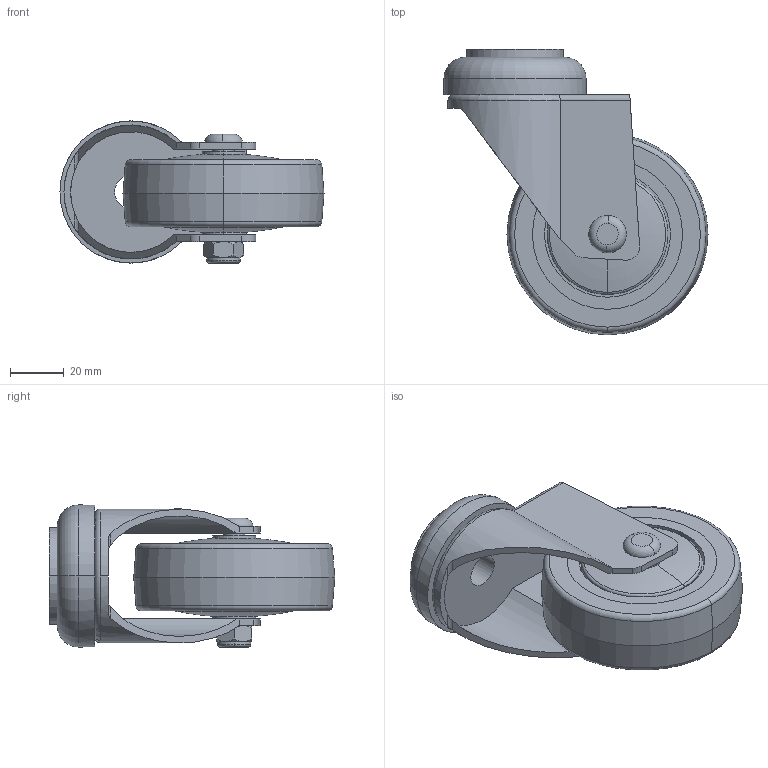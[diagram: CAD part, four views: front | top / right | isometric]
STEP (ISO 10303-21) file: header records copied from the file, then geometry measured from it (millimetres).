
FILE_DESCRIPTION (( 'STEP AP214' ), '1' );
FILE_NAME ('WLR75-H-12MM.step', '2024-01-15T01:49:21', ( '' ), ( '' ), 'SwSTEP 2.0', 'SolidWorks 2022', '' );
FILE_SCHEMA (( 'AUTOMOTIVE_DESIGN' ));
Length unit declared in the file: millimetre
Products named in the file (5): M8Nyloc; WL75-H-12MM; WLR75; WLR75-H-12MM; WL bolt 50mm-8mm dia
Assembly tree (4 placements, depth 2):
  WLR75-H-12MM
    WL bolt 50mm-8mm dia
    M8Nyloc
    WL75-H-12MM
    WLR75
Bounding box: 98.5 x 106.5 x 53 mm (x, y, z)
Volume: 161191.9 mm3; surface area: 39985.1 mm2
Topology: 4 solids, 4 shells, 561 faces, 1525 edges, 1003 vertices
Faces by surface type: plane 326, bspline 104, cylinder 92, torus 19, cone 18, sphere 2
Entity records: 26148 total; most frequent: CARTESIAN_POINT 12347, ORIENTED_EDGE 3046, DIRECTION 2286, EDGE_CURVE 1523, VECTOR 1044, LINE 1044, VERTEX_POINT 1003, AXIS2_PLACEMENT_3D 621
